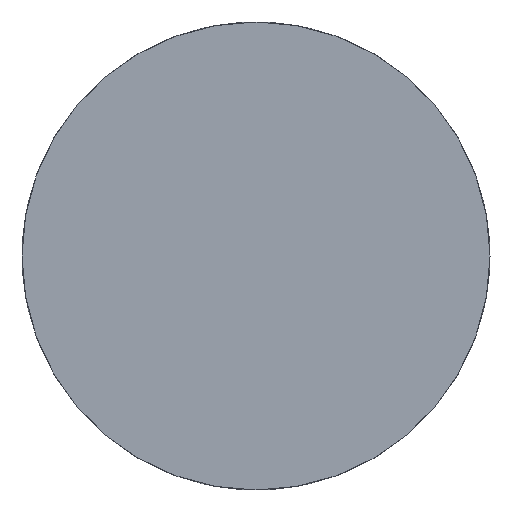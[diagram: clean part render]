
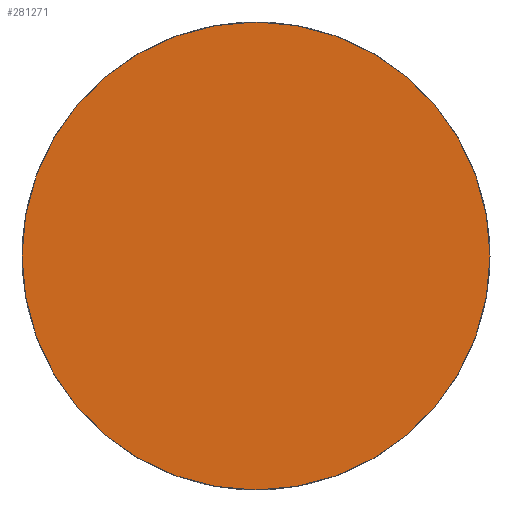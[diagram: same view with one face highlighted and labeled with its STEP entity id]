
A CAD part, top view. The second image highlights one B-rep face of the part: STEP entity #281271.
In plain terms, the highlighted planar face has unit normal (0, 0, 1).
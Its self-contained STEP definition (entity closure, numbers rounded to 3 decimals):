
#251561=CARTESIAN_POINT('',(46.,0.,50.));
#251562=VERTEX_POINT('',#251561);
#251736=CARTESIAN_POINT('',(-46.,-0.003,50.));
#251737=VERTEX_POINT('',#251736);
#251751=CARTESIAN_POINT('',(0.,-0.001,50.));
#251756=DIRECTION('',(0.,0.,1.));
#251761=DIRECTION('',(1.,0.,0.));
#251766=AXIS2_PLACEMENT_3D('',#251751,#251756,#251761);
#251771=CIRCLE('',#251766,46.);
#251776=EDGE_CURVE('',#251562,#251737,#251771,.T.);
#253981=CARTESIAN_POINT('',(0.,0.001,50.));
#253986=DIRECTION('',(0.,-0.,1.));
#253991=DIRECTION('',(-1.,0.,0.));
#253996=AXIS2_PLACEMENT_3D('',#253981,#253986,#253991);
#254001=CIRCLE('',#253996,46.);
#254006=EDGE_CURVE('',#251737,#251562,#254001,.T.);
#281226=DIRECTION('',(0.,0.,1.));
#281231=CARTESIAN_POINT('',(-46.,-47.363,50.));
#281236=DIRECTION('',(1.,0.,0.));
#281241=AXIS2_PLACEMENT_3D('',#281231,#281226,#281236);
#281246=PLANE('',#281241);
#281251=ORIENTED_EDGE('',*,*,#254006,.T.);
#281256=ORIENTED_EDGE('',*,*,#251776,.T.);
#281261=EDGE_LOOP('',(#281251,#281256));
#281266=FACE_OUTER_BOUND('',#281261,.T.);
#281271=ADVANCED_FACE('NONE',(#281266),#281246,.T.);
